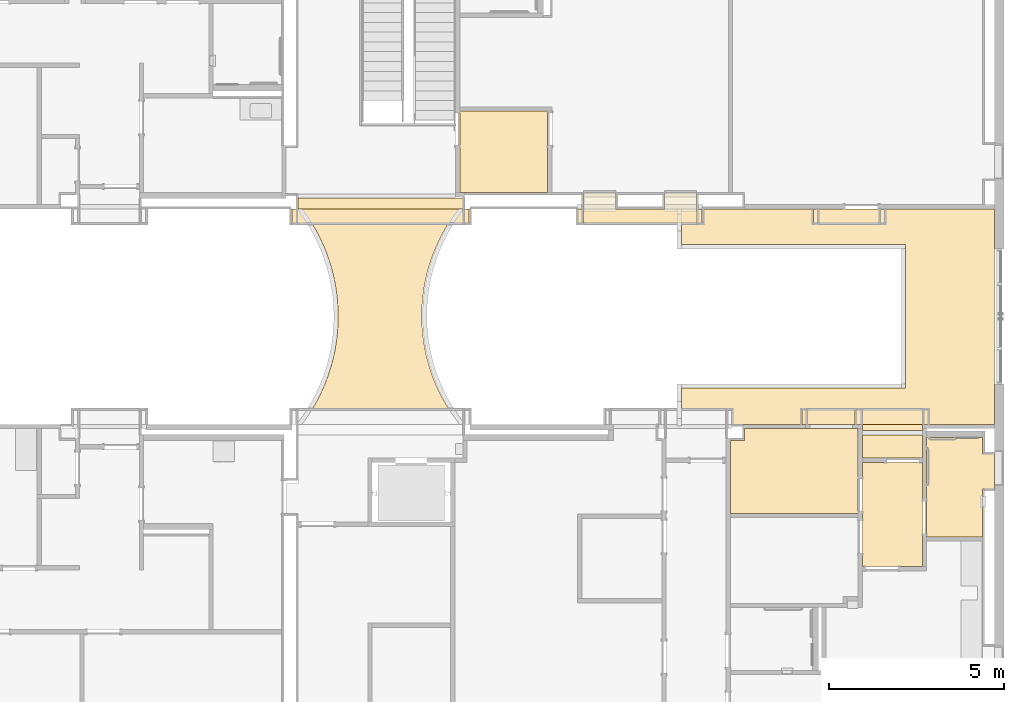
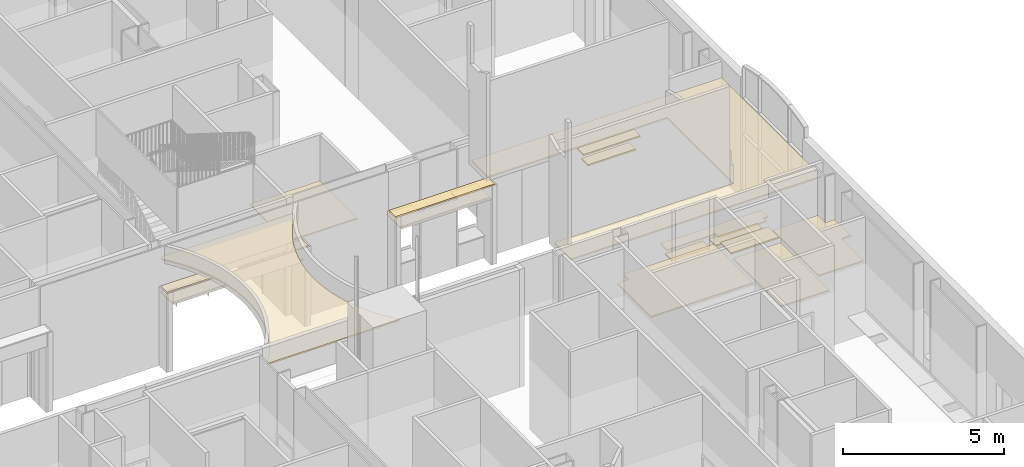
# One storey, part 54 of 87: 16 coverings.
"""IFC2X3 building model written with IfcOpenShell, lengths in metres."""

from ifc_helpers import new_model, entity, si_unit, converted_unit, origin, place, context, project, spatial, face_set, surface_model, material, layer, layer_set, layer_usage, element, save


model = new_model("IFC2X3")

# Units and contexts
model_context = context("Model", 3, precision=1e-09, world=origin())
plan_context = context("Plan", 3, precision=1e-09, world=origin())
ifc_project = project(units=[si_unit("LENGTHUNIT", "METRE"), si_unit("AREAUNIT", "SQUARE_METRE"), si_unit("VOLUMEUNIT", "CUBIC_METRE"), converted_unit("PLANEANGLEUNIT", "DEGREE", entity("IfcRatioMeasure", 0.01745329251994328), si_unit("PLANEANGLEUNIT", "RADIAN"), dimensions=[0, 0, 0, 0, 0, 0, 0]), si_unit("TIMEUNIT", "SECOND")], contexts=[model_context, plan_context])

# Site, building, storey
site_placement = place(None, origin())
site = spatial("IfcSite", under=ifc_project, at=site_placement, Name="Default", CompositionType="ELEMENT")
building_placement = place(site_placement, origin())
building = spatial("IfcBuilding", under=site, at=building_placement, CompositionType="ELEMENT")
storey_placement = place(building_placement, origin())
storey = spatial("IfcBuildingStorey", under=building, at=storey_placement, Name="First Floor", CompositionType="ELEMENT", Elevation=-3.531500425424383e-13)

# Coverings
ifc_material_1 = material(Name="Default")
ifc_layer_1 = layer(ifc_material_1, 0.03599999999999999)
ifc_material_2 = material(Name="Ceiling Tile 600 x 600")
ifc_layer_2 = layer(ifc_material_2, 0.016)
ifc_layer_set_1 = layer_set([ifc_layer_1, ifc_layer_2], Name="Compound Ceiling:ACT 600 x 600mm Grid")
ifc_layer_usage_1 = layer_usage(ifc_layer_set_1, "AXIS3", "NEGATIVE", 0.0)
covering_1_placement = place(storey_placement, origin())
element("IfcCovering", 1, at=covering_1_placement, inside=storey, material=ifc_layer_usage_1, Name="Compound Ceiling:ACT 600 x 600mm Grid", ObjectType="Compound Ceiling:ACT 600 x 600mm Grid", PredefinedType="CEILING", context=model_context, shape_type="SurfaceModel", body=[
    surface_model("IfcFaceBasedSurfaceModel", [(-1.959975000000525, 27.51999999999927, 2.732), (-1.95997500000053, 24.53999999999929, 2.732), (-3.669975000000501, 24.5399999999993, 2.732), (-3.669975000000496, 27.51999999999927, 2.732), (-1.959975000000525, 27.51999999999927, 2.68), (-1.95997500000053, 24.53999999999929, 2.68), (-3.669975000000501, 24.5399999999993, 2.68), (-3.669975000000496, 27.51999999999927, 2.68)], [face_set([[[0, 1, 2, 3]], [[4, 5, 6, 7]], [[3, 7, 4, 0]], [[2, 6, 7, 3]], [[1, 2, 6, 5]], [[0, 1, 5, 4]]])]),
])
ifc_layer_usage_2 = layer_usage(ifc_layer_set_1, "AXIS3", "NEGATIVE", 0.0)
covering_2_placement = place(storey_placement, origin())
element("IfcCovering", 2, at=covering_2_placement, inside=storey, material=ifc_layer_usage_2, Name="Compound Ceiling:ACT 600 x 600mm Grid", ObjectType="Compound Ceiling:ACT 600 x 600mm Grid", PredefinedType="CEILING", context=model_context, shape_type="SurfaceModel", body=[
    surface_model("IfcFaceBasedSurfaceModel", [(-0.2300000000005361, 28.22999999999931, 2.732), (-0.2300000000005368, 27.75999999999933, 2.732), (0.1129999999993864, 27.75999999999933, 2.732), (0.1129999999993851, 26.75999999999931, 2.732), (-0.2300000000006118, 26.75999999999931, 2.732), (-0.230000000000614, 25.38999999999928, 2.732), (-1.835975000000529, 25.38999999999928, 2.732), (-1.835975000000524, 28.22999999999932, 2.732), (-0.2300000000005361, 28.22999999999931, 2.68), (-1.835975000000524, 28.22999999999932, 2.68), (-1.835975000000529, 25.38999999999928, 2.68), (-0.230000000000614, 25.38999999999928, 2.68), (-0.2300000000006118, 26.75999999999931, 2.68), (0.1129999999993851, 26.75999999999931, 2.68), (0.1129999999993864, 27.75999999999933, 2.68), (-0.2300000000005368, 27.75999999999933, 2.68)], [face_set([[[0, 1, 2, 3, 4, 5, 6, 7]], [[8, 9, 10, 11, 12, 13, 14, 15]], [[7, 9, 8, 0]], [[6, 10, 9, 7]], [[5, 6, 10, 11]], [[4, 5, 11, 12]], [[3, 4, 12, 13]], [[2, 3, 13, 14]], [[1, 15, 14, 2]], [[0, 1, 15, 8]]])]),
])
ifc_layer_usage_3 = layer_usage(ifc_layer_set_1, "AXIS3", "NEGATIVE", 0.0)
covering_3_placement = place(storey_placement, origin())
element("IfcCovering", 3, at=covering_3_placement, inside=storey, material=ifc_layer_usage_3, Name="Compound Ceiling:ACT 600 x 600mm Grid", ObjectType="Compound Ceiling:ACT 600 x 600mm Grid", PredefinedType="CEILING", context=model_context, shape_type="SurfaceModel", body=[
    surface_model("IfcFaceBasedSurfaceModel", [(-15.04797500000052, 35.23999999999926, 2.732), (-15.19600000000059, 35.23999999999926, 2.732), (-15.19600000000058, 37.57599999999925, 2.732), (-12.68400000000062, 37.57599999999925, 2.732), (-12.68400000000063, 35.23999999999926, 2.732), (-15.04797500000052, 35.23999999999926, 2.68), (-15.19600000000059, 35.23999999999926, 2.68), (-15.19600000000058, 37.57599999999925, 2.68), (-12.68400000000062, 37.57599999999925, 2.68), (-12.68400000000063, 35.23999999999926, 2.68)], [face_set([[[0, 1, 2, 3, 4]], [[5, 6, 7, 8, 9]], [[3, 4, 9, 8]], [[2, 7, 8, 3]], [[1, 6, 7, 2]], [[0, 1, 6, 5]], [[4, 0, 5, 9]]])]),
])
ifc_layer_usage_4 = layer_usage(ifc_layer_set_1, "AXIS3", "NEGATIVE", 0.0)
covering_4_placement = place(storey_placement, origin())
element("IfcCovering", 4, at=covering_4_placement, inside=storey, material=ifc_layer_usage_4, Name="Compound Ceiling:ACT 600 x 600mm Grid", ObjectType="Compound Ceiling:ACT 600 x 600mm Grid", PredefinedType="CEILING", context=model_context, shape_type="SurfaceModel", body=[
    surface_model("IfcFaceBasedSurfaceModel", [(-3.793975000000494, 28.48599999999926, 2.732), (-3.793975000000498, 26.06399999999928, 2.732), (-7.455975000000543, 26.06399999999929, 2.732), (-7.455975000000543, 28.14999999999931, 2.732), (-7.050000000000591, 28.14999999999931, 2.732), (-7.050000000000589, 28.48599999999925, 2.732), (-5.305722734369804, 28.48599999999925, 2.732), (-5.171852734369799, 28.48599999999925, 2.732), (-3.956852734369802, 28.48599999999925, 2.732), (-3.793975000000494, 28.48599999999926, 2.68), (-3.793975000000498, 26.06399999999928, 2.68), (-7.455975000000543, 26.06399999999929, 2.68), (-7.455975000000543, 28.14999999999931, 2.68), (-7.050000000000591, 28.14999999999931, 2.68), (-7.050000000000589, 28.48599999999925, 2.68), (-5.305722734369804, 28.48599999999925, 2.68), (-5.171852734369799, 28.48599999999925, 2.68), (-3.956852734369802, 28.48599999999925, 2.68)], [face_set([[[0, 1, 2, 3, 4, 5, 6, 7, 8]], [[9, 10, 11, 12, 13, 14, 15, 16, 17]], [[8, 17, 9, 0]], [[7, 16, 17, 8]], [[6, 15, 16, 7]], [[5, 14, 15, 6]], [[4, 13, 14, 5]], [[3, 12, 13, 4]], [[2, 11, 12, 3]], [[1, 2, 11, 10]], [[0, 1, 10, 9]]])]),
])
ifc_material_3 = material(Name="Metal - Stud Layer")
ifc_layer_3 = layer(ifc_material_3, 0.045)
ifc_material_4 = material(Name="Plasterboard")
ifc_layer_4 = layer(ifc_material_4, 0.012)
ifc_layer_set_2 = layer_set([ifc_layer_3, ifc_layer_4], Name="Compound Ceiling:Gypsum Board")
ifc_layer_usage_5 = layer_usage(ifc_layer_set_2, "AXIS3", "NEGATIVE", 0.0)
covering_5_placement = place(storey_placement, origin())
element("IfcCovering", 5, at=covering_5_placement, inside=storey, material=ifc_layer_usage_5, Name="Compound Ceiling:Gypsum Board", ObjectType="Compound Ceiling:Gypsum Board", PredefinedType="CEILING", context=model_context, shape_type="SurfaceModel", body=[
    surface_model("IfcFaceBasedSurfaceModel", [(-3.669975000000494, 28.30349999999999, 2.857), (-1.959975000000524, 28.30349999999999, 2.857), (-1.959975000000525, 27.64399999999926, 2.857), (-3.669975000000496, 27.64399999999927, 2.857), (-3.669975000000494, 28.30349999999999, 2.8), (-1.959975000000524, 28.30349999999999, 2.8), (-1.959975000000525, 27.64399999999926, 2.8), (-3.669975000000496, 27.64399999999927, 2.8)], [face_set([[[0, 1, 2, 3]], [[4, 5, 6, 7]], [[3, 7, 4, 0]], [[2, 3, 7, 6]], [[1, 2, 6, 5]], [[0, 4, 5, 1]]])]),
])
ifc_layer_usage_6 = layer_usage(ifc_layer_set_2, "AXIS3", "NEGATIVE", 0.0)
covering_6_placement = place(storey_placement, origin())
element("IfcCovering", 6, at=covering_6_placement, inside=storey, material=ifc_layer_usage_6, Name="Compound Ceiling:Gypsum Board", ObjectType="Compound Ceiling:Gypsum Board", PredefinedType="CEILING", context=model_context, shape_type="SurfaceModel", body=[
    surface_model("IfcFaceBasedSurfaceModel", [(-15.1099750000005, 35.07199999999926, 3.857), (-15.10997500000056, 34.92990326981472, 3.857), (-15.26607528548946, 34.73497943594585, 3.857), (-15.41223467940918, 34.53249479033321, 3.857), (-15.54808759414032, 34.32295580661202, 3.857), (-15.67329422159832, 34.10688660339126, 3.857), (-15.78754138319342, 33.884827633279, 3.857), (-15.89054331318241, 33.65733433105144, 3.857), (-15.98204237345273, 33.42497572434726, 3.857), (-16.06180969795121, 33.18833301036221, 3.857), (-16.12964576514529, 32.94799810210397, 3.857), (-16.18538089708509, 32.70457214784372, 3.857), (-16.22887568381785, 32.45866402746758, 3.857), (-16.26002133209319, 32.21088882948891, 3.857), (-16.278739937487, 31.96186631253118, 3.857), (-16.28498467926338, 31.71221935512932, 3.857), (-16.278739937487, 31.46257239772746, 3.857), (-16.26002133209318, 31.21354988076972, 3.857), (-16.22887568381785, 30.96577468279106, 3.857), (-16.18538089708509, 30.71986656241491, 3.857), (-16.12964576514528, 30.47644060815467, 3.857), (-16.0618096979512, 30.23610569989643, 3.857), (-15.98204237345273, 29.99946298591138, 3.857), (-15.8905433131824, 29.7671043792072, 3.857), (-15.78754138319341, 29.53961107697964, 3.857), (-15.67329422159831, 29.31755210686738, 3.857), (-15.54808759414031, 29.10148290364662, 3.857), (-15.41223467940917, 28.89194391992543, 3.857), (-15.26607528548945, 28.68945927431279, 3.857), (-15.10997500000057, 28.49453544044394, 3.857), (-15.10997500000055, 28.42750000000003, 3.857), (-19.8300000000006, 28.42750000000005, 3.857), (-19.83000000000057, 28.46440281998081, 3.857), (-19.67682203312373, 28.66193136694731, 3.857), (-19.53347420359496, 28.86670542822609, 3.857), (-19.40029865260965, 29.07823625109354, 3.857), (-19.27761324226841, 29.29601895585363, 3.857), (-19.1657107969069, 29.51953374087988, 3.857), (-19.06485840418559, 29.74824712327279, 3.857), (-18.97529677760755, 29.98161321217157, 3.857), (-18.89723968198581, 30.21907501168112, 3.857), (-18.83087342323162, 30.46006575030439, 3.857), (-18.77635640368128, 30.704010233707, 3.857), (-18.73381874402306, 30.95032621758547, 3.857), (-18.70336197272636, 31.19842579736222, 3.857), (-18.68505878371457, 31.44771681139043, 3.857), (-18.67895286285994, 31.69760425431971, 3.857), (-18.68505878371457, 31.947491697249, 3.857), (-18.70336197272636, 32.19678271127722, 3.857), (-18.73381874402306, 32.44488229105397, 3.857), (-18.77635640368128, 32.69119827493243, 3.857), (-18.83087342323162, 32.93514275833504, 3.857), (-18.89723968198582, 33.17613349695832, 3.857), (-18.97529677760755, 33.41359529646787, 3.857), (-19.06485840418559, 33.64696138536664, 3.857), (-19.16571079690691, 33.87567476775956, 3.857), (-19.27761324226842, 34.0991895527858, 3.857), (-19.40029865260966, 34.3169722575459, 3.857), (-19.53347420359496, 34.52850308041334, 3.857), (-19.67682203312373, 34.73327714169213, 3.857), (-19.83000000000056, 34.93080568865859, 3.857), (-19.83000000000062, 35.07199999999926, 3.857), (-15.1099750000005, 35.07199999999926, 3.8), (-15.1099750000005, 34.92990326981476, 3.8), (-15.26607528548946, 34.73497943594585, 3.8), (-15.41223467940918, 34.53249479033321, 3.8), (-15.54808759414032, 34.32295580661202, 3.8), (-15.67329422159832, 34.10688660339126, 3.8), (-15.78754138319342, 33.884827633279, 3.8), (-15.89054331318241, 33.65733433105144, 3.8), (-15.98204237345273, 33.42497572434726, 3.8), (-16.06180969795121, 33.18833301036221, 3.8), (-16.12964576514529, 32.94799810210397, 3.8), (-16.18538089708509, 32.70457214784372, 3.8), (-16.22887568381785, 32.45866402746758, 3.8), (-16.26002133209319, 32.21088882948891, 3.8), (-16.278739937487, 31.96186631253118, 3.8), (-16.28498467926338, 31.71221935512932, 3.8), (-16.278739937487, 31.46257239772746, 3.8), (-16.26002133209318, 31.21354988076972, 3.8), (-16.22887568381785, 30.96577468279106, 3.8), (-16.18538089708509, 30.71986656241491, 3.8), (-16.12964576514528, 30.47644060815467, 3.8), (-16.0618096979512, 30.23610569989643, 3.8), (-15.98204237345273, 29.99946298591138, 3.8), (-15.8905433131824, 29.7671043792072, 3.8), (-15.78754138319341, 29.53961107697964, 3.8), (-15.67329422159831, 29.31755210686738, 3.8), (-15.54808759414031, 29.10148290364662, 3.8), (-15.41223467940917, 28.89194391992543, 3.8), (-15.26607528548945, 28.68945927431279, 3.8), (-15.10997500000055, 28.49453544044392, 3.8), (-15.10997500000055, 28.42750000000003, 3.8), (-19.8300000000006, 28.42750000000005, 3.8), (-19.8300000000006, 28.46440281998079, 3.8), (-19.67682203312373, 28.66193136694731, 3.8), (-19.53347420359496, 28.86670542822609, 3.8), (-19.40029865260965, 29.07823625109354, 3.8), (-19.27761324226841, 29.29601895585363, 3.8), (-19.1657107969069, 29.51953374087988, 3.8), (-19.06485840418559, 29.74824712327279, 3.8), (-18.97529677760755, 29.98161321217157, 3.8), (-18.89723968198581, 30.21907501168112, 3.8), (-18.83087342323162, 30.46006575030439, 3.8), (-18.77635640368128, 30.704010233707, 3.8), (-18.73381874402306, 30.95032621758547, 3.8), (-18.70336197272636, 31.19842579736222, 3.8), (-18.68505878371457, 31.44771681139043, 3.8), (-18.67895286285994, 31.69760425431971, 3.8), (-18.68505878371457, 31.947491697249, 3.8), (-18.70336197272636, 32.19678271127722, 3.8), (-18.73381874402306, 32.44488229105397, 3.8), (-18.77635640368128, 32.69119827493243, 3.8), (-18.83087342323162, 32.93514275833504, 3.8), (-18.89723968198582, 33.17613349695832, 3.8), (-18.97529677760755, 33.41359529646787, 3.8), (-19.06485840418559, 33.64696138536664, 3.8), (-19.16571079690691, 33.87567476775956, 3.8), (-19.27761324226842, 34.0991895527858, 3.8), (-19.40029865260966, 34.3169722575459, 3.8), (-19.53347420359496, 34.52850308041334, 3.8), (-19.67682203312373, 34.73327714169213, 3.8), (-19.83000000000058, 34.93080568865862, 3.8), (-19.83000000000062, 35.07199999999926, 3.8)], [face_set([[[0, 1, 2, 3, 4, 5, 6, 7, 8, 9, 10, 11, 12, 13, 14, 15, 16, 17, 18, 19, 20, 21, 22, 23, 24, 25, 26, 27, 28, 29, 30, 31, 32, 33, 34, 35, 36, 37, 38, 39, 40, 41, 42, 43, 44, 45, 46, 47, 48, 49, 50, 51, 52, 53, 54, 55, 56, 57, 58, 59, 60, 61]], [[62, 63, 64, 65, 66, 67, 68, 69, 70, 71, 72, 73, 74, 75, 76, 77, 78, 79, 80, 81, 82, 83, 84, 85, 86, 87, 88, 89, 90, 91, 92, 93, 94, 95, 96, 97, 98, 99, 100, 101, 102, 103, 104, 105, 106, 107, 108, 109, 110, 111, 112, 113, 114, 115, 116, 117, 118, 119, 120, 121, 122, 123]], [[61, 123, 62, 0]], [[60, 122, 123, 61]], [[118, 56, 57, 119]], [[117, 55, 56, 118]], [[122, 60, 59, 121]], [[120, 58, 59, 121]], [[119, 57, 58, 120]], [[116, 54, 55, 117]], [[111, 49, 50, 112]], [[110, 48, 49, 111]], [[114, 52, 53, 115]], [[113, 51, 52, 114]], [[112, 50, 51, 113]], [[115, 53, 54, 116]], [[109, 47, 48, 110]], [[47, 109, 108, 46]], [[103, 41, 42, 104]], [[102, 40, 41, 103]], [[106, 44, 45, 107]], [[105, 43, 44, 106]], [[104, 42, 43, 105]], [[101, 39, 40, 102]], [[96, 34, 35, 97]], [[95, 33, 34, 96]], [[99, 37, 38, 100]], [[98, 36, 37, 99]], [[97, 35, 36, 98]], [[100, 38, 39, 101]], [[95, 33, 32, 94]], [[107, 45, 46, 108]], [[31, 93, 94, 32]], [[30, 31, 93, 92]], [[29, 30, 92, 91]], [[87, 25, 26, 88]], [[86, 24, 25, 87]], [[91, 29, 28, 90]], [[90, 28, 27, 89]], [[88, 26, 27, 89]], [[85, 23, 24, 86]], [[80, 18, 19, 81]], [[79, 17, 18, 80]], [[83, 21, 22, 84]], [[82, 20, 21, 83]], [[81, 19, 20, 82]], [[84, 22, 23, 85]], [[78, 16, 17, 79]], [[16, 78, 77, 15]], [[72, 10, 11, 73]], [[71, 9, 10, 72]], [[75, 13, 14, 76]], [[74, 12, 13, 75]], [[73, 11, 12, 74]], [[70, 8, 9, 71]], [[65, 3, 4, 66]], [[64, 2, 3, 65]], [[68, 6, 7, 69]], [[67, 5, 6, 68]], [[66, 4, 5, 67]], [[69, 7, 8, 70]], [[64, 2, 1, 63]], [[76, 14, 15, 77]], [[0, 1, 63, 62]]])]),
])
ifc_layer_usage_7 = layer_usage(ifc_layer_set_2, "AXIS3", "NEGATIVE", 0.0)
covering_7_placement = place(storey_placement, origin())
element("IfcCovering", 7, at=covering_7_placement, inside=storey, material=ifc_layer_usage_7, Name="Compound Ceiling:Gypsum Board", ObjectType="Compound Ceiling:Gypsum Board", PredefinedType="CEILING", context=model_context, shape_type="SurfaceModel", body=[
    surface_model("IfcFaceBasedSurfaceModel", [(-8.857726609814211, 33.75399999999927, 3.857), (-2.436000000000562, 33.75399999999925, 3.857), (-2.436000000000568, 29.64599999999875, 3.857), (-8.857726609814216, 29.64599999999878, 3.857), (-8.857726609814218, 28.60999999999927, 3.857), (0.1129999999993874, 28.60999999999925, 3.857), (0.1129999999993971, 34.77999999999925, 3.857), (-8.85772660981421, 34.77999999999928, 3.857), (-8.857726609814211, 33.75399999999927, 3.8), (-8.85772660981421, 34.77999999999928, 3.8), (0.1129999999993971, 34.77999999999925, 3.8), (0.1129999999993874, 28.60999999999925, 3.8), (-8.857726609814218, 28.60999999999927, 3.8), (-8.857726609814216, 29.64599999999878, 3.8), (-2.436000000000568, 29.64599999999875, 3.8), (-2.436000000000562, 33.75399999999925, 3.8)], [face_set([[[0, 1, 2, 3, 4, 5, 6, 7]], [[8, 9, 10, 11, 12, 13, 14, 15]], [[0, 8, 9, 7]], [[1, 0, 8, 15]], [[2, 14, 15, 1]], [[3, 13, 14, 2]], [[4, 12, 13, 3]], [[5, 4, 12, 11]], [[6, 5, 11, 10]], [[7, 9, 10, 6]]])]),
])
ifc_layer_usage_8 = layer_usage(ifc_layer_set_2, "AXIS3", "NEGATIVE", 0.0)
covering_8_placement = place(storey_placement, origin())
element("IfcCovering", 8, at=covering_8_placement, inside=storey, material=ifc_layer_usage_8, Name="Compound Ceiling:Gypsum Board", ObjectType="Compound Ceiling:Gypsum Board", PredefinedType="CEILING", context=model_context, shape_type="SurfaceModel", body=[
    surface_model("IfcFaceBasedSurfaceModel", [(-15.10997500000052, 34.37399999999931, 2.557), (-19.8300000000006, 34.37399999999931, 2.557), (-19.8300000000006, 35.08199999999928, 2.557), (-15.10997500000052, 35.08199999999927, 2.557), (-15.10997500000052, 34.37399999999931, 2.5), (-19.8300000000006, 34.37399999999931, 2.5), (-19.8300000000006, 35.08199999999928, 2.5), (-15.32000000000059, 35.08199999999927, 2.5), (-15.10997500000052, 35.08199999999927, 2.5)], [face_set([[[0, 1, 2, 3]], [[4, 5, 6, 7, 8]], [[3, 0, 4, 8]], [[2, 6, 7, 8, 3]], [[1, 5, 6, 2]], [[0, 1, 5, 4]]])]),
])
ifc_layer_usage_9 = layer_usage(ifc_layer_set_2, "AXIS3", "NEGATIVE", 0.0)
covering_9_placement = place(storey_placement, origin())
element("IfcCovering", 9, at=covering_9_placement, inside=storey, material=ifc_layer_usage_9, Name="Compound Ceiling:Gypsum Board", ObjectType="Compound Ceiling:Gypsum Board", PredefinedType="CEILING", context=model_context, shape_type="SurfaceModel", body=[
    surface_model("IfcFaceBasedSurfaceModel", [(-11.6500000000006, 35.23499999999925, 2.557), (-10.7300000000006, 35.23499999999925, 2.557), (-10.7300000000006, 34.77999999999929, 2.557), (-9.34000000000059, 34.77999999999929, 2.557), (-9.340000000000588, 35.23499999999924, 2.557), (-8.420000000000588, 35.23499999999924, 2.557), (-8.420000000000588, 34.37399999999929, 2.557), (-11.6500000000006, 34.37399999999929, 2.557), (-11.6500000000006, 35.23499999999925, 2.5), (-10.7300000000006, 35.23499999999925, 2.5), (-10.7300000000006, 34.77999999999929, 2.5), (-9.34000000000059, 34.77999999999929, 2.5), (-9.340000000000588, 35.23499999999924, 2.5), (-8.420000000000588, 35.23499999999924, 2.5), (-8.420000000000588, 34.37399999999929, 2.5), (-11.6500000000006, 34.37399999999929, 2.5)], [face_set([[[0, 1, 2, 3, 4, 5, 6, 7]], [[8, 9, 10, 11, 12, 13, 14, 15]], [[7, 15, 8, 0]], [[6, 7, 15, 14]], [[5, 6, 14, 13]], [[4, 12, 13, 5]], [[3, 11, 12, 4]], [[2, 10, 11, 3]], [[1, 2, 10, 9]], [[0, 8, 9, 1]]])]),
])
ifc_layer_usage_10 = layer_usage(ifc_layer_set_2, "AXIS3", "NEGATIVE", 0.0)
covering_10_placement = place(storey_placement, origin())
element("IfcCovering", 10, at=covering_10_placement, inside=storey, material=ifc_layer_usage_10, Name="Compound Ceiling:Gypsum Board", ObjectType="Compound Ceiling:Gypsum Board", PredefinedType="CEILING", context=model_context, shape_type="SurfaceModel", body=[
    surface_model("IfcFaceBasedSurfaceModel", [(-4.913500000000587, 34.77999999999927, 2.557), (-3.203500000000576, 34.77999999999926, 2.557), (-3.203500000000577, 34.37399999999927, 2.557), (-4.913500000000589, 34.37399999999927, 2.557), (-4.913500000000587, 34.77999999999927, 2.5), (-3.203500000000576, 34.77999999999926, 2.5), (-3.203500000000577, 34.37399999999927, 2.5), (-4.913500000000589, 34.37399999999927, 2.5)], [face_set([[[0, 1, 2, 3]], [[4, 5, 6, 7]], [[3, 7, 4, 0]], [[2, 3, 7, 6]], [[1, 2, 6, 5]], [[0, 4, 5, 1]]])]),
])
ifc_layer_usage_11 = layer_usage(ifc_layer_set_2, "AXIS3", "NEGATIVE", 0.0)
covering_11_placement = place(storey_placement, origin())
element("IfcCovering", 11, at=covering_11_placement, inside=storey, material=ifc_layer_usage_11, Name="Compound Ceiling:Gypsum Board", ObjectType="Compound Ceiling:Gypsum Board", PredefinedType="CEILING", context=model_context, shape_type="SurfaceModel", body=[
    surface_model("IfcFaceBasedSurfaceModel", [(-3.669975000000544, 28.60999999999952, 2.557), (-3.669975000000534, 29.01599999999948, 2.557), (-1.959975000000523, 29.01599999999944, 2.557), (-1.959975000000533, 28.60999999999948, 2.557), (-3.669975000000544, 28.60999999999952, 2.5), (-3.669975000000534, 29.01599999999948, 2.5), (-1.959975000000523, 29.01599999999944, 2.5), (-1.959975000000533, 28.60999999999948, 2.5)], [face_set([[[0, 1, 2, 3]], [[4, 5, 6, 7]], [[0, 4, 5, 1]], [[1, 5, 6, 2]], [[2, 3, 7, 6]], [[3, 0, 4, 7]]])]),
])
ifc_layer_usage_12 = layer_usage(ifc_layer_set_2, "AXIS3", "NEGATIVE", 0.0)
covering_12_placement = place(storey_placement, origin())
element("IfcCovering", 12, at=covering_12_placement, inside=storey, material=ifc_layer_usage_12, Name="Compound Ceiling:Gypsum Board", ObjectType="Compound Ceiling:Gypsum Board", PredefinedType="CEILING", context=model_context, shape_type="SurfaceModel", body=[
    surface_model("IfcFaceBasedSurfaceModel", [(-5.243722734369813, 28.60999999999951, 2.557), (-5.243722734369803, 29.01599999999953, 2.557), (-3.884975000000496, 29.01599999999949, 2.557), (-3.884975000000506, 28.60999999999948, 2.557), (-5.243722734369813, 28.60999999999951, 2.5), (-5.243722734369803, 29.01599999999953, 2.5), (-3.884975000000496, 29.01599999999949, 2.5), (-3.884975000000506, 28.60999999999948, 2.5)], [face_set([[[0, 1, 2, 3]], [[4, 5, 6, 7]], [[0, 4, 5, 1]], [[1, 5, 6, 2]], [[2, 3, 7, 6]], [[3, 0, 4, 7]]])]),
])
ifc_layer_usage_13 = layer_usage(ifc_layer_set_2, "AXIS3", "NEGATIVE", 0.0)
covering_13_placement = place(storey_placement, origin())
element("IfcCovering", 13, at=covering_13_placement, inside=storey, material=ifc_layer_usage_13, Name="Compound Ceiling:Gypsum Board", ObjectType="Compound Ceiling:Gypsum Board", PredefinedType="CEILING", context=model_context, shape_type="SurfaceModel", body=[
    surface_model("IfcFaceBasedSurfaceModel", [(-11.81100000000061, 34.77999999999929, 3.0), (-8.259000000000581, 34.77999999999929, 3.0), (-8.259000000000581, 34.37399999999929, 3.0), (-11.81100000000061, 34.37399999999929, 3.0), (-11.81100000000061, 34.77999999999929, 2.943), (-8.259000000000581, 34.77999999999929, 2.943), (-8.259000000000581, 34.37399999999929, 2.943), (-11.81100000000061, 34.37399999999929, 2.943)], [face_set([[[0, 1, 2, 3]], [[4, 5, 6, 7]], [[3, 7, 4, 0]], [[2, 3, 7, 6]], [[1, 2, 6, 5]], [[0, 4, 5, 1]]])]),
])
ifc_layer_usage_14 = layer_usage(ifc_layer_set_2, "AXIS3", "NEGATIVE", 0.0)
covering_14_placement = place(storey_placement, origin())
element("IfcCovering", 14, at=covering_14_placement, inside=storey, material=ifc_layer_usage_14, Name="Compound Ceiling:Gypsum Board", ObjectType="Compound Ceiling:Gypsum Board", PredefinedType="CEILING", context=model_context, shape_type="SurfaceModel", body=[
    surface_model("IfcFaceBasedSurfaceModel", [(-5.074500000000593, 34.77999999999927, 3.0), (-3.042500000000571, 34.77999999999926, 3.0), (-3.042500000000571, 34.37399999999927, 3.0), (-5.074500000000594, 34.37399999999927, 3.0), (-5.074500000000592, 34.77999999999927, 2.943), (-3.042500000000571, 34.77999999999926, 2.943), (-3.042500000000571, 34.37399999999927, 2.943), (-5.074500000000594, 34.37399999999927, 2.943)], [face_set([[[0, 1, 2, 3]], [[4, 5, 6, 7]], [[3, 7, 4, 0]], [[2, 3, 7, 6]], [[1, 2, 6, 5]], [[0, 4, 5, 1]]])]),
])
ifc_layer_usage_15 = layer_usage(ifc_layer_set_2, "AXIS3", "NEGATIVE", 0.0)
covering_15_placement = place(storey_placement, origin())
element("IfcCovering", 15, at=covering_15_placement, inside=storey, material=ifc_layer_usage_15, Name="Compound Ceiling:Gypsum Board", ObjectType="Compound Ceiling:Gypsum Board", PredefinedType="CEILING", context=model_context, shape_type="SurfaceModel", body=[
    surface_model("IfcFaceBasedSurfaceModel", [(-5.404722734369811, 28.60999999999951, 3.0), (-3.669975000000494, 28.60999999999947, 3.0), (-3.669975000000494, 28.42749999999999, 3.0), (-1.959975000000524, 28.42749999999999, 3.0), (-1.959975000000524, 28.60999999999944, 3.0), (-1.798975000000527, 28.60999999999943, 3.0), (-1.798975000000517, 29.01599999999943, 3.0), (-5.404722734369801, 29.01599999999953, 3.0), (-5.404722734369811, 28.60999999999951, 2.943), (-5.404722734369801, 29.01599999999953, 2.943), (-1.798975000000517, 29.01599999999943, 2.943), (-1.798975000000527, 28.60999999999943, 2.943), (-1.959975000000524, 28.60999999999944, 2.943), (-1.959975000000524, 28.42749999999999, 2.943), (-3.669975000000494, 28.42749999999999, 2.943), (-3.669975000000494, 28.60999999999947, 2.943)], [face_set([[[0, 1, 2, 3, 4, 5, 6, 7]], [[8, 9, 10, 11, 12, 13, 14, 15]], [[0, 8, 9, 7]], [[7, 9, 10, 6]], [[6, 5, 11, 10]], [[1, 0, 8, 15]], [[2, 14, 15, 1]], [[3, 2, 14, 13]], [[4, 3, 13, 12]], [[5, 4, 12, 11]]])]),
])
ifc_layer_usage_16 = layer_usage(ifc_layer_set_2, "AXIS3", "NEGATIVE", 0.0)
covering_16_placement = place(storey_placement, origin())
element("IfcCovering", 16, at=covering_16_placement, inside=storey, material=ifc_layer_usage_16, Name="Compound Ceiling:Gypsum Board", ObjectType="Compound Ceiling:Gypsum Board", PredefinedType="CEILING", context=model_context, shape_type="SurfaceModel", body=[
    surface_model("IfcFaceBasedSurfaceModel", [(-14.9289750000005, 34.37399999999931, 3.0), (-20.00600000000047, 34.37399999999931, 3.0), (-20.00600000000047, 34.77999999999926, 3.0), (-14.92897500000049, 34.77999999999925, 3.0), (-14.9289750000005, 34.37399999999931, 2.943), (-20.00600000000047, 34.37399999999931, 2.943), (-20.00600000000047, 34.77999999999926, 2.943), (-14.92897500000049, 34.77999999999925, 2.943)], [face_set([[[0, 1, 2, 3]], [[4, 5, 6, 7]], [[3, 0, 4, 7]], [[2, 6, 7, 3]], [[1, 5, 6, 2]], [[0, 1, 5, 4]]])]),
])

save(model, "model.ifc")
